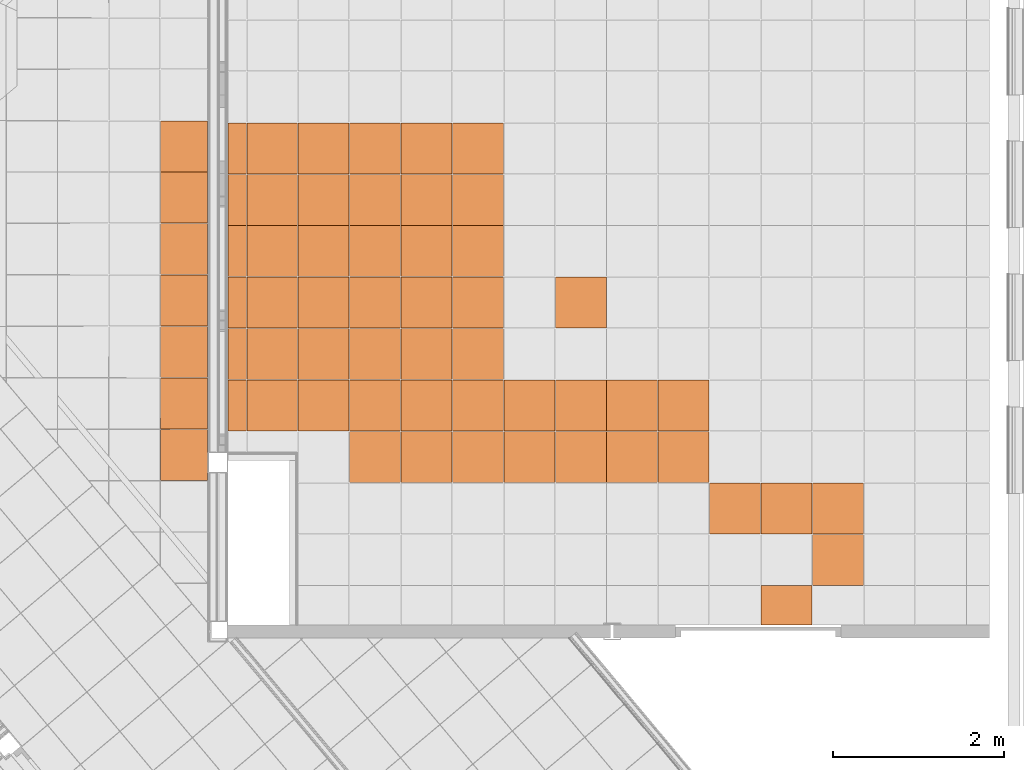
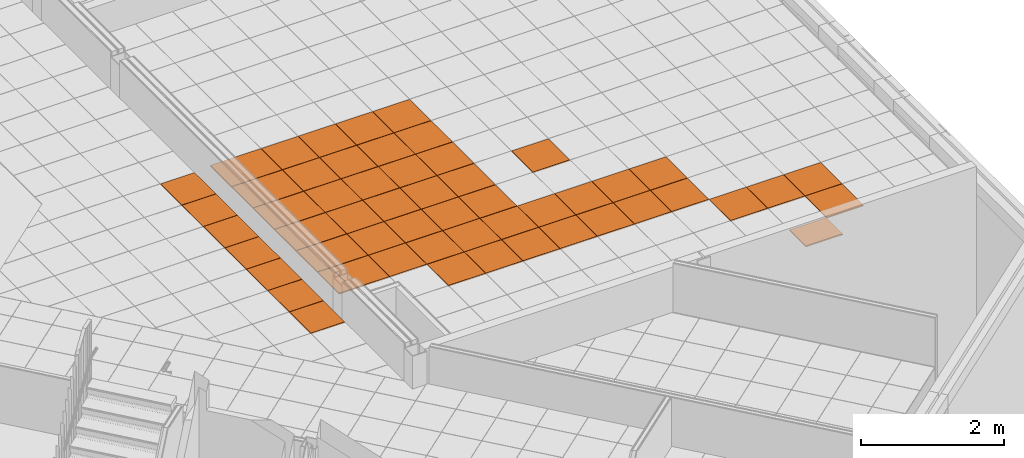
# One storey, part 216 of 338: 60 proxies, 2 elements without a shape of their own.
"""IFC2X3 building model written with IfcOpenShell, lengths in millimetres."""

import ifcopenshell
import ifcopenshell.guid

model = None  # the IFC model being written
_history = None  # IfcOwnerHistory: only IFC2X3 demands one
_inside = {}  # id of a spatial element -> (the spatial element, [elements in it])
_under = {}  # id of a project, library or spatial element -> (it, [spatial elements below it])
_declared = {}  # id of a project -> (the project, [libraries it declares])
_typed = {}  # id of a type object -> (the type object, [elements of that type])
_made_of = {}  # id of a material, layer set ... -> (it, [elements and type objects made of it])


def new_model(schema):
    """Start an empty IFC model of exactly this schema.

    Asked for "IFC4X3", IfcOpenShell would pick the latest addendum, in which some entities
    have other attributes; the version numbers below select the first issue.
    IFC2X3 requires an IfcOwnerHistory on every rooted entity: one is made here for all.
    """
    global model, _history
    if schema == "IFC4X3":
        model = ifcopenshell.file(schema_version=(4, 3, 0, 0))
    else:
        model = ifcopenshell.file(schema=schema)
    _inside.clear()
    _under.clear()
    _declared.clear()
    _typed.clear()
    _made_of.clear()
    _history = None
    if model.schema == "IFC2X3":
        org = make("IfcOrganization", Name="unknown")
        user = make(
            "IfcPersonAndOrganization",
            ThePerson=make("IfcPerson", FamilyName="unknown"),
            TheOrganization=org,
        )
        app = make(
            "IfcApplication",
            ApplicationDeveloper=org,
            Version="unknown",
            ApplicationFullName="unknown",
            ApplicationIdentifier="unknown",
        )
        _history = make(
            "IfcOwnerHistory",
            OwningUser=user,
            OwningApplication=app,
            ChangeAction="ADDED",
            CreationDate=0,
        )
    return model


def make(cls, **values):
    """One entity of the class cls with the attributes given. An attribute that is None is left unset."""
    return model.create_entity(
        cls, **{name: value for name, value in values.items() if value is not None}
    )


def entity(cls, *values):
    """Any entity or typed value of the class cls, its attributes in the order of the schema. None: left unset."""
    e = model.create_entity(cls)
    for i, value in enumerate(values):
        if value is not None:
            e[i] = value
    return e


def rooted(cls, **values):
    """An entity with a GlobalId (a new one), such as an element, a storey or a relation."""
    return make(cls, GlobalId=ifcopenshell.guid.new(), OwnerHistory=_history, **values)


def si_unit(unit_type, name, prefix=None):
    """IfcSIUnit, for example si_unit("LENGTHUNIT", "METRE", prefix="MILLI")."""
    return make("IfcSIUnit", UnitType=unit_type, Prefix=prefix, Name=name)


def converted_unit(unit_type, name, factor, base, dimensions=None, offset=None):
    """IfcConversionBasedUnit, such as the inch: factor (a typed value) times the base unit."""
    return make(
        "IfcConversionBasedUnit"
        if offset is None
        else "IfcConversionBasedUnitWithOffset",
        ConversionOffset=offset,
        Dimensions=None
        if dimensions is None
        else entity("IfcDimensionalExponents", *dimensions),
        UnitType=unit_type,
        Name=name,
        ConversionFactor=make(
            "IfcMeasureWithUnit", ValueComponent=factor, UnitComponent=base
        ),
    )


def derived_unit(unit_type, elements):
    """IfcDerivedUnit: a product of units, each with its exponent."""
    return make(
        "IfcDerivedUnit",
        Elements=[
            make("IfcDerivedUnitElement", Unit=unit, Exponent=power)
            for unit, power in elements
        ],
        UnitType=unit_type,
    )


def money_unit(currency):
    """IfcMonetaryUnit."""
    return make("IfcMonetaryUnit", Currency=currency)


def assignment(units):
    """IfcUnitAssignment: the units of a project."""
    return None if units is None else make("IfcUnitAssignment", Units=units)


def point(xyz):
    """IfcCartesianPoint."""
    return None if xyz is None else make("IfcCartesianPoint", Coordinates=xyz)


def direction(xyz):
    """IfcDirection."""
    return None if xyz is None else make("IfcDirection", DirectionRatios=xyz)


def frame(location, z_axis=None, x_axis=None):
    """IfcAxis2Placement3D, a coordinate frame: its origin and axes. An axis left out is left unset."""
    return make(
        "IfcAxis2Placement3D",
        Location=point(location),
        Axis=direction(z_axis),
        RefDirection=direction(x_axis),
    )


def origin_with_axes():
    """The frame at (0, 0, 0) with the z axis (0, 0, 1) and the x axis (1, 0, 0) written out."""
    return frame((0.0, 0.0, 0.0), z_axis=(0.0, 0.0, 1.0), x_axis=(1.0, 0.0, 0.0))


def place(relative_to, where):
    """IfcLocalPlacement: puts the frame where relative to a parent placement (None: the world)."""
    return make(
        "IfcLocalPlacement", PlacementRelTo=relative_to, RelativePlacement=where
    )


def context(
    kind, dimensions, precision=None, world=None, true_north=None, identifier=None
):
    """IfcGeometricRepresentationContext, for example the 3D "Model" context."""
    return make(
        "IfcGeometricRepresentationContext",
        ContextIdentifier=identifier,
        ContextType=kind,
        CoordinateSpaceDimension=dimensions,
        Precision=precision,
        WorldCoordinateSystem=world,
        TrueNorth=true_north,
    )


def subcontext(parent, identifier, kind, view, scale=None):
    """IfcGeometricRepresentationSubContext, for example "Body" below "Model"."""
    return make(
        "IfcGeometricRepresentationSubContext",
        ContextIdentifier=identifier,
        ContextType=kind,
        ParentContext=parent,
        TargetScale=scale,
        TargetView=view,
    )


def project(units=None, contexts=None):
    """IfcProject with its units and contexts."""
    return rooted(
        "IfcProject",
        Name="project",
        RepresentationContexts=contexts,
        UnitsInContext=assignment(units),
    )


def spatial(cls, under=None, at=None, **own):
    """A site, building, storey or space (cls), placed at a placement, below another one or the project."""
    s = rooted(cls, ObjectPlacement=at, **own)
    if under is not None:
        _under.setdefault(under.id(), (under, []))[1].append(s)
    return s


def faces_of(points, faces, orient=None, outer=None):
    """IfcFace entities. A face is a list of loops; a loop is a list of indices into points, from 0.

    orient and outer hold one flag for each loop. By default every Orientation is true, the
    first loop of a face is its IfcFaceOuterBound and the others are IfcFaceBound.
    """
    made = []
    for i, loops in enumerate(faces):
        bounds = []
        for j, loop in enumerate(loops):
            is_outer = j == 0 if outer is None else outer[i][j]
            bounds.append(
                make(
                    "IfcFaceOuterBound" if is_outer else "IfcFaceBound",
                    Bound=make("IfcPolyLoop", Polygon=[points[k] for k in loop]),
                    Orientation=True if orient is None else orient[i][j],
                )
            )
        made.append(make("IfcFace", Bounds=bounds))
    return made


def faceted_brep(points, faces, orient=None, outer=None, voids=None):
    """IfcFacetedBrep: a solid bounded by flat faces; with voids (closed shells), ...WithVoids."""
    shared = [point(p) for p in points]
    hull = make("IfcClosedShell", CfsFaces=faces_of(shared, faces, orient, outer))
    if voids is None:
        return make("IfcFacetedBrep", Outer=hull)
    return make(
        "IfcFacetedBrepWithVoids",
        Outer=hull,
        Voids=[
            make(cls, CfsFaces=faces_of(shared, fs, o, b)) for cls, fs, o, b in voids
        ],
    )


def shape(context_of_items, identifier, shape_type, items):
    """IfcShapeRepresentation: the items that make up one representation, for example the "Body"."""
    return make(
        "IfcShapeRepresentation",
        ContextOfItems=context_of_items,
        RepresentationIdentifier=identifier,
        RepresentationType=shape_type,
        Items=items,
    )


def source(mapping_origin, context_of_items, identifier, shape_type, items):
    """IfcRepresentationMap: a shape defined once, which mapped items show again and again."""
    return make(
        "IfcRepresentationMap",
        MappingOrigin=mapping_origin,
        MappedRepresentation=shape(context_of_items, identifier, shape_type, items),
    )


def transform(
    local_origin,
    x_axis=None,
    y_axis=None,
    z_axis=None,
    scale=None,
    scale2=None,
    scale3=None,
    uniform=True,
):
    """IfcCartesianTransformationOperator3D, or its non-uniform kind. x_axis, y_axis, z_axis: its Axis1, 2, 3."""
    if uniform:
        return make(
            "IfcCartesianTransformationOperator3D",
            Axis1=direction(x_axis),
            Axis2=direction(y_axis),
            LocalOrigin=point(local_origin),
            Scale=scale,
            Axis3=direction(z_axis),
        )
    return make(
        "IfcCartesianTransformationOperator3DnonUniform",
        Axis1=direction(x_axis),
        Axis2=direction(y_axis),
        LocalOrigin=point(local_origin),
        Scale=scale,
        Axis3=direction(z_axis),
        Scale2=scale2,
        Scale3=scale3,
    )


def mapped(mapping_source, mapping_target):
    """IfcMappedItem: shows the shape of a source again, moved by a transform."""
    return make(
        "IfcMappedItem", MappingSource=mapping_source, MappingTarget=mapping_target
    )


def material(Name=None, Category=None):
    """IfcMaterial."""
    return make("IfcMaterial", Name=Name, Category=Category)


def made_of(thing, what):
    """Note that an element or type object is made of a material, layer set ...; save() writes the relation."""
    if what is not None:
        _made_of.setdefault(what.id(), (what, []))[1].append(thing)
    return thing


def type_object(cls, material=None, **own):
    """A type object (cls), such as IfcWallType, which elements share."""
    return made_of(rooted(cls, **own), material)


def type_shapes(of_type, sources):
    """Give a type object the sources (RepresentationMaps) that its elements show as mapped items."""
    of_type.RepresentationMaps = sources


def element(
    cls,
    number,
    at=None,
    inside=None,
    cuts=None,
    type_object=None,
    material=None,
    context=None,
    identifier="Body",
    shape_type=None,
    held_by="IfcProductDefinitionShape",
    body=None,
    shapes=None,
    **own,
):
    """One element of the class cls, such as IfcWall. Its Tag is "e" and its number.

    at: its placement. inside: the storey or other place that contains it. cuts: it is an
    opening in that element (IfcRelVoidsElement). A single representation is given by context,
    identifier, shape_type and body (its items); several are given by shapes. held_by: the class
    of the entity that holds the representations. save() writes the other relations.
    """
    e = rooted(cls, Tag="e%d" % number, ObjectPlacement=at, **own)
    if body is not None:
        shapes = [shape(context, identifier, shape_type, body)]
    if shapes is not None:
        e.Representation = make(held_by, Representations=shapes)
    if inside is not None:
        _inside.setdefault(inside.id(), (inside, []))[1].append(e)
    if cuts is not None:
        rooted(
            "IfcRelVoidsElement", RelatingBuildingElement=cuts, RelatedOpeningElement=e
        )
    if type_object is not None:
        _typed.setdefault(type_object.id(), (type_object, []))[1].append(e)
    return made_of(e, material)


def aggregate(whole, parts):
    """IfcRelAggregates: a whole, such as a stair, and the parts it consists of."""
    return rooted("IfcRelAggregates", RelatingObject=whole, RelatedObjects=parts)


def save(model, path):
    """Write the relations noted so far, then the file.

    IfcRelAggregates (storeys below a building ...), IfcRelContainedInSpatialStructure (elements
    in a storey), IfcRelDefinesByType, IfcRelAssociatesMaterial and IfcRelDeclares: one each for
    every whole, place, type object, material and project.
    """
    for whole, parts in _under.values():
        aggregate(whole, parts)
    for where, things in _inside.values():
        rooted(
            "IfcRelContainedInSpatialStructure",
            RelatedElements=things,
            RelatingStructure=where,
        )
    for kind, things in _typed.values():
        rooted("IfcRelDefinesByType", RelatedObjects=things, RelatingType=kind)
    for what, things in _made_of.values():
        rooted("IfcRelAssociatesMaterial", RelatedObjects=things, RelatingMaterial=what)
    for by, libraries in _declared.values():
        rooted("IfcRelDeclares", RelatingContext=by, RelatedDefinitions=libraries)
    model.write(path)


model = new_model("IFC2X3")

# Units and contexts
model_context = context("Model", 3, precision=0.01, world=origin_with_axes(), true_north=direction((0.0, 1.0)))
plan_context = context("Plan", 3, precision=0.01, world=origin_with_axes(), true_north=direction((0.0, 1.0)))
body_context = subcontext(model_context, "Body", "Model", "MODEL_VIEW")
ifc_project = project(units=[si_unit("LENGTHUNIT", "METRE", prefix="MILLI"), si_unit("AREAUNIT", "SQUARE_METRE"), si_unit("VOLUMEUNIT", "CUBIC_METRE"), converted_unit("PLANEANGLEUNIT", "DEGREE", entity("IfcPlaneAngleMeasure", 0.0174532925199), si_unit("PLANEANGLEUNIT", "RADIAN"), dimensions=[0, 0, 0, 0, 0, 0, 0]), money_unit("EUR"), converted_unit("TIMEUNIT", "Year", entity("IfcTimeMeasure", 31556926.0), si_unit("TIMEUNIT", "SECOND"), dimensions=[0, 0, 1, 0, 0, 0, 0]), si_unit("MASSUNIT", "GRAM", prefix="KILO"), si_unit("THERMODYNAMICTEMPERATUREUNIT", "DEGREE_CELSIUS"), si_unit("LUMINOUSINTENSITYUNIT", "LUMEN"), si_unit("ENERGYUNIT", "JOULE", prefix="MEGA"), derived_unit("THERMALCONDUCTANCEUNIT", [(si_unit("POWERUNIT", "WATT"), 1), (si_unit("LENGTHUNIT", "METRE"), -1), (si_unit("THERMODYNAMICTEMPERATUREUNIT", "KELVIN"), -1)]), derived_unit("SPECIFICHEATCAPACITYUNIT", [(si_unit("ENERGYUNIT", "JOULE"), 1), (si_unit("MASSUNIT", "GRAM", prefix="KILO"), -1), (si_unit("THERMODYNAMICTEMPERATUREUNIT", "KELVIN"), -1)]), derived_unit("MASSDENSITYUNIT", [(si_unit("MASSUNIT", "GRAM", prefix="KILO"), 1), (si_unit("VOLUMEUNIT", "CUBIC_METRE"), -1)])], contexts=[model_context, plan_context])

# Site, building, storey
site_placement = place(None, origin_with_axes())
site = spatial("IfcSite", under=ifc_project, at=site_placement, Name="Fortuinstraat Woensdrecht", CompositionType="ELEMENT")
building_placement = place(site_placement, origin_with_axes())
building = spatial("IfcBuilding", under=site, at=building_placement, Name="IKC Fortuna", CompositionType="ELEMENT")
storey_placement = place(building_placement, origin_with_axes())
storey = spatial("IfcBuildingStorey", under=building, at=storey_placement, Name="00 begane grond", CompositionType="ELEMENT", Elevation=0.0)

# Covering, proxies
covering_type = type_object("IfcCoveringType", Name="Curtain Wall Type", PredefinedType="CEILING")
covering_1_placement = place(storey_placement, frame((34484.9342671, 3789.29664615, 3065.0), z_axis=(0.0, 0.0, 1.0), x_axis=(1.0, 0.0, 0.0)))
covering_1 = element("IfcCovering", 1, at=covering_1_placement, inside=storey, type_object=covering_type, Name="45_Plafondafwerking_P02 gec", PredefinedType="CEILING")
ifc_material = material(Name="Gipsplaat")
building_element_proxy_type_1 = type_object("IfcBuildingElementProxyType", Name="Distinct Panel 600 x 600 x 20", PredefinedType="NOTDEFINED")
shared_shape_1 = source(origin_with_axes(), body_context, "Body", "Brep", [
    faceted_brep([(-2.49999999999, 2.5, -10.0), (-2.49999999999, 2.5, 10.0), (-597.5, 2.49999999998, 10.0), (-597.5, 2.49999999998, -10.0), (-2.50000000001, 597.5, -10.0), (-2.50000000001, 597.5, 10.0), (-597.5, 597.5, 10.0), (-597.5, 597.5, -10.0)], [[[0, 1, 2, 3]], [[4, 5, 1, 0]], [[1, 5, 6, 2]], [[3, 2, 6, 7]], [[0, 3, 7, 4]], [[7, 6, 5, 4]]]),
])
type_shapes(building_element_proxy_type_1, [shared_shape_1])
proxy_1_placement = place(covering_1_placement, frame((-6434.49272604, 600.0, 0.0), z_axis=(0.0, 0.0, 1.0), x_axis=(1.0, 0.0, 0.0)))
proxy_1 = element("IfcBuildingElementProxy", 2, at=proxy_1_placement, type_object=building_element_proxy_type_1, material=ifc_material, Name="__Panel-D", context=body_context, shape_type="MappedRepresentation", body=[
    mapped(shared_shape_1, transform((-300.0, 300.0, 0.0), x_axis=(-1.0, 0.0, 0.0), y_axis=(0.0, -1.0, 0.0), z_axis=(0.0, 0.0, 1.0))),
])
proxy_2_placement = place(covering_1_placement, frame((-2234.49272604, -600.0, 2.14939177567e-10), z_axis=(0.0, 0.0, 1.0), x_axis=(1.0, 0.0, 0.0)))
proxy_2 = element("IfcBuildingElementProxy", 3, at=proxy_2_placement, type_object=building_element_proxy_type_1, material=ifc_material, Name="__Panel-D", context=body_context, shape_type="MappedRepresentation", body=[
    mapped(shared_shape_1, transform((-300.0, 300.0, 0.0), x_axis=(-1.0, 0.0, 0.0), y_axis=(0.0, -1.0, 0.0), z_axis=(0.0, 0.0, 1.0))),
])
proxy_3_placement = place(covering_1_placement, frame((-5834.49272604, 2.3625545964e-10, 0.0), z_axis=(0.0, 0.0, 1.0), x_axis=(1.0, 0.0, 0.0)))
proxy_3 = element("IfcBuildingElementProxy", 4, at=proxy_3_placement, type_object=building_element_proxy_type_1, material=ifc_material, Name="__Panel-D", context=body_context, shape_type="MappedRepresentation", body=[
    mapped(shared_shape_1, transform((-300.0, 300.0, 0.0), x_axis=(-1.0, 0.0, 0.0), y_axis=(0.0, -1.0, 0.0), z_axis=(0.0, 0.0, 1.0))),
])
proxy_4_placement = place(covering_1_placement, frame((-7034.49272604, 600.0, 0.0), z_axis=(0.0, 0.0, 1.0), x_axis=(1.0, 0.0, 0.0)))
proxy_4 = element("IfcBuildingElementProxy", 5, at=proxy_4_placement, type_object=building_element_proxy_type_1, material=ifc_material, Name="__Panel-D", context=body_context, shape_type="MappedRepresentation", body=[
    mapped(shared_shape_1, transform((-300.0, 300.0, 0.0), x_axis=(-1.0, 0.0, 0.0), y_axis=(0.0, -1.0, 0.0), z_axis=(0.0, 0.0, 1.0))),
])
proxy_5_placement = place(covering_1_placement, frame((-8234.49272604, 600.0, 0.0), z_axis=(0.0, 0.0, 1.0), x_axis=(1.0, 0.0, 0.0)))
proxy_5 = element("IfcBuildingElementProxy", 6, at=proxy_5_placement, type_object=building_element_proxy_type_1, material=ifc_material, Name="__Panel-D", context=body_context, shape_type="MappedRepresentation", body=[
    mapped(shared_shape_1, transform((-300.0, 300.0, 0.0), x_axis=(-1.0, 0.0, 0.0), y_axis=(0.0, -1.0, 0.0), z_axis=(0.0, 0.0, 1.0))),
])
proxy_6_placement = place(covering_1_placement, frame((-1634.49272604, -1200.0, 2.34479102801e-10), z_axis=(0.0, 0.0, 1.0), x_axis=(1.0, 0.0, 0.0)))
proxy_6 = element("IfcBuildingElementProxy", 7, at=proxy_6_placement, type_object=building_element_proxy_type_1, material=ifc_material, Name="__Panel-D", context=body_context, shape_type="MappedRepresentation", body=[
    mapped(shared_shape_1, transform((-300.0, 300.0, 0.0), x_axis=(-1.0, 0.0, 0.0), y_axis=(0.0, -1.0, 0.0), z_axis=(0.0, 0.0, 1.0))),
])
proxy_7_placement = place(covering_1_placement, frame((-6434.49272604, 2.60236276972e-10, 0.0), z_axis=(0.0, 0.0, 1.0), x_axis=(1.0, 0.0, 0.0)))
proxy_7 = element("IfcBuildingElementProxy", 8, at=proxy_7_placement, type_object=building_element_proxy_type_1, material=ifc_material, Name="__Panel-D", context=body_context, shape_type="MappedRepresentation", body=[
    mapped(shared_shape_1, transform((-300.0, 300.0, 0.0), x_axis=(-1.0, 0.0, 0.0), y_axis=(0.0, -1.0, 0.0), z_axis=(0.0, 0.0, 1.0))),
])
proxy_8_placement = place(covering_1_placement, frame((-7034.49272604, 2.84217094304e-10, 0.0), z_axis=(0.0, 0.0, 1.0), x_axis=(1.0, 0.0, 0.0)))
proxy_8 = element("IfcBuildingElementProxy", 9, at=proxy_8_placement, type_object=building_element_proxy_type_1, material=ifc_material, Name="__Panel-D", context=body_context, shape_type="MappedRepresentation", body=[
    mapped(shared_shape_1, transform((-300.0, 300.0, 0.0), x_axis=(-1.0, 0.0, 0.0), y_axis=(0.0, -1.0, 0.0), z_axis=(0.0, 0.0, 1.0))),
])
proxy_9_placement = place(covering_1_placement, frame((-7634.49272604, 600.0, 0.0), z_axis=(0.0, 0.0, 1.0), x_axis=(1.0, 0.0, 0.0)))
proxy_9 = element("IfcBuildingElementProxy", 10, at=proxy_9_placement, type_object=building_element_proxy_type_1, material=ifc_material, Name="__Panel-D", context=body_context, shape_type="MappedRepresentation", body=[
    mapped(shared_shape_1, transform((-300.0, 300.0, 0.0), x_axis=(-1.0, 0.0, 0.0), y_axis=(0.0, -1.0, 0.0), z_axis=(0.0, 0.0, 1.0))),
])
proxy_10_placement = place(covering_1_placement, frame((-1634.49272604, -600.0, 2.34479102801e-10), z_axis=(0.0, 0.0, 1.0), x_axis=(1.0, 0.0, 0.0)))
proxy_10 = element("IfcBuildingElementProxy", 11, at=proxy_10_placement, type_object=building_element_proxy_type_1, material=ifc_material, Name="__Panel-D", context=body_context, shape_type="MappedRepresentation", body=[
    mapped(shared_shape_1, transform((-300.0, 300.0, 0.0), x_axis=(-1.0, 0.0, 0.0), y_axis=(0.0, -1.0, 0.0), z_axis=(0.0, 0.0, 1.0))),
])
proxy_11_placement = place(covering_1_placement, frame((-2834.49272604, -600.0, 1.95399252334e-10), z_axis=(0.0, 0.0, 1.0), x_axis=(1.0, 0.0, 0.0)))
proxy_11 = element("IfcBuildingElementProxy", 12, at=proxy_11_placement, type_object=building_element_proxy_type_1, material=ifc_material, Name="__Panel-D", context=body_context, shape_type="MappedRepresentation", body=[
    mapped(shared_shape_1, transform((-300.0, 300.0, 0.0), x_axis=(-1.0, 0.0, 0.0), y_axis=(0.0, -1.0, 0.0), z_axis=(0.0, 0.0, 1.0))),
])
proxy_12_placement = place(covering_1_placement, frame((-5834.49272604, 3600.0, 0.0), z_axis=(0.0, 0.0, 1.0), x_axis=(1.0, 0.0, 0.0)))
proxy_12 = element("IfcBuildingElementProxy", 13, at=proxy_12_placement, type_object=building_element_proxy_type_1, material=ifc_material, Name="__Panel-D", context=body_context, shape_type="MappedRepresentation", body=[
    mapped(shared_shape_1, transform((-300.0, 300.0, 0.0), x_axis=(-1.0, 0.0, 0.0), y_axis=(0.0, -1.0, 0.0), z_axis=(0.0, 0.0, 1.0))),
])
proxy_13_placement = place(covering_1_placement, frame((-6434.49272604, 3600.0, 0.0), z_axis=(0.0, 0.0, 1.0), x_axis=(1.0, 0.0, 0.0)))
proxy_13 = element("IfcBuildingElementProxy", 14, at=proxy_13_placement, type_object=building_element_proxy_type_1, material=ifc_material, Name="__Panel-D", context=body_context, shape_type="MappedRepresentation", body=[
    mapped(shared_shape_1, transform((-300.0, 300.0, 0.0), x_axis=(-1.0, 0.0, 0.0), y_axis=(0.0, -1.0, 0.0), z_axis=(0.0, 0.0, 1.0))),
])
proxy_14_placement = place(covering_1_placement, frame((-7034.49272604, 3600.0, 0.0), z_axis=(0.0, 0.0, 1.0), x_axis=(1.0, 0.0, 0.0)))
proxy_14 = element("IfcBuildingElementProxy", 15, at=proxy_14_placement, type_object=building_element_proxy_type_1, material=ifc_material, Name="__Panel-D", context=body_context, shape_type="MappedRepresentation", body=[
    mapped(shared_shape_1, transform((-300.0, 300.0, 0.0), x_axis=(-1.0, 0.0, 0.0), y_axis=(0.0, -1.0, 0.0), z_axis=(0.0, 0.0, 1.0))),
])
proxy_15_placement = place(covering_1_placement, frame((-7634.49272604, 3600.0, 0.0), z_axis=(0.0, 0.0, 1.0), x_axis=(1.0, 0.0, 0.0)))
proxy_15 = element("IfcBuildingElementProxy", 16, at=proxy_15_placement, type_object=building_element_proxy_type_1, material=ifc_material, Name="__Panel-D", context=body_context, shape_type="MappedRepresentation", body=[
    mapped(shared_shape_1, transform((-300.0, 300.0, 0.0), x_axis=(-1.0, 0.0, 0.0), y_axis=(0.0, -1.0, 0.0), z_axis=(0.0, 0.0, 1.0))),
])
proxy_16_placement = place(covering_1_placement, frame((-8234.49272604, 3600.0, 0.0), z_axis=(0.0, 0.0, 1.0), x_axis=(1.0, 0.0, 0.0)))
proxy_16 = element("IfcBuildingElementProxy", 17, at=proxy_16_placement, type_object=building_element_proxy_type_1, material=ifc_material, Name="__Panel-D", context=body_context, shape_type="MappedRepresentation", body=[
    mapped(shared_shape_1, transform((-300.0, 300.0, 0.0), x_axis=(-1.0, 0.0, 0.0), y_axis=(0.0, -1.0, 0.0), z_axis=(0.0, 0.0, 1.0))),
])
proxy_17_placement = place(covering_1_placement, frame((-8234.49272604, 3000.0, 0.0), z_axis=(0.0, 0.0, 1.0), x_axis=(1.0, 0.0, 0.0)))
proxy_17 = element("IfcBuildingElementProxy", 18, at=proxy_17_placement, type_object=building_element_proxy_type_1, material=ifc_material, Name="__Panel-D", context=body_context, shape_type="MappedRepresentation", body=[
    mapped(shared_shape_1, transform((-300.0, 300.0, 0.0), x_axis=(-1.0, 0.0, 0.0), y_axis=(0.0, -1.0, 0.0), z_axis=(0.0, 0.0, 1.0))),
])
proxy_18_placement = place(covering_1_placement, frame((-7634.49272604, 3000.0, 0.0), z_axis=(0.0, 0.0, 1.0), x_axis=(1.0, 0.0, 0.0)))
proxy_18 = element("IfcBuildingElementProxy", 19, at=proxy_18_placement, type_object=building_element_proxy_type_1, material=ifc_material, Name="__Panel-D", context=body_context, shape_type="MappedRepresentation", body=[
    mapped(shared_shape_1, transform((-300.0, 300.0, 0.0), x_axis=(-1.0, 0.0, 0.0), y_axis=(0.0, -1.0, 0.0), z_axis=(0.0, 0.0, 1.0))),
])
proxy_19_placement = place(covering_1_placement, frame((-7034.49272604, 3000.0, 0.0), z_axis=(0.0, 0.0, 1.0), x_axis=(1.0, 0.0, 0.0)))
proxy_19 = element("IfcBuildingElementProxy", 20, at=proxy_19_placement, type_object=building_element_proxy_type_1, material=ifc_material, Name="__Panel-D", context=body_context, shape_type="MappedRepresentation", body=[
    mapped(shared_shape_1, transform((-300.0, 300.0, 0.0), x_axis=(-1.0, 0.0, 0.0), y_axis=(0.0, -1.0, 0.0), z_axis=(0.0, 0.0, 1.0))),
])
proxy_20_placement = place(covering_1_placement, frame((-6434.49272604, 3000.0, 0.0), z_axis=(0.0, 0.0, 1.0), x_axis=(1.0, 0.0, 0.0)))
proxy_20 = element("IfcBuildingElementProxy", 21, at=proxy_20_placement, type_object=building_element_proxy_type_1, material=ifc_material, Name="__Panel-D", context=body_context, shape_type="MappedRepresentation", body=[
    mapped(shared_shape_1, transform((-300.0, 300.0, 0.0), x_axis=(-1.0, 0.0, 0.0), y_axis=(0.0, -1.0, 0.0), z_axis=(0.0, 0.0, 1.0))),
])
proxy_21_placement = place(covering_1_placement, frame((-5834.49272604, 3000.0, 0.0), z_axis=(0.0, 0.0, 1.0), x_axis=(1.0, 0.0, 0.0)))
proxy_21 = element("IfcBuildingElementProxy", 22, at=proxy_21_placement, type_object=building_element_proxy_type_1, material=ifc_material, Name="__Panel-D", context=body_context, shape_type="MappedRepresentation", body=[
    mapped(shared_shape_1, transform((-300.0, 300.0, 0.0), x_axis=(-1.0, 0.0, 0.0), y_axis=(0.0, -1.0, 0.0), z_axis=(0.0, 0.0, 1.0))),
])
proxy_22_placement = place(covering_1_placement, frame((-4634.49272604, 1800.0, 1.37223565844e-10), z_axis=(0.0, 0.0, 1.0), x_axis=(1.0, 0.0, 0.0)))
proxy_22 = element("IfcBuildingElementProxy", 23, at=proxy_22_placement, type_object=building_element_proxy_type_1, material=ifc_material, Name="__Panel-D", context=body_context, shape_type="MappedRepresentation", body=[
    mapped(shared_shape_1, transform((-300.0, 300.0, 0.0), x_axis=(-1.0, 0.0, 0.0), y_axis=(0.0, -1.0, 0.0), z_axis=(0.0, 0.0, 1.0))),
])
proxy_23_placement = place(covering_1_placement, frame((-5834.49272604, 2400.0, 0.0), z_axis=(0.0, 0.0, 1.0), x_axis=(1.0, 0.0, 0.0)))
proxy_23 = element("IfcBuildingElementProxy", 24, at=proxy_23_placement, type_object=building_element_proxy_type_1, material=ifc_material, Name="__Panel-D", context=body_context, shape_type="MappedRepresentation", body=[
    mapped(shared_shape_1, transform((-300.0, 300.0, 0.0), x_axis=(-1.0, 0.0, 0.0), y_axis=(0.0, -1.0, 0.0), z_axis=(0.0, 0.0, 1.0))),
])
proxy_24_placement = place(covering_1_placement, frame((-6434.49272604, 2400.0, 0.0), z_axis=(0.0, 0.0, 1.0), x_axis=(1.0, 0.0, 0.0)))
proxy_24 = element("IfcBuildingElementProxy", 25, at=proxy_24_placement, type_object=building_element_proxy_type_1, material=ifc_material, Name="__Panel-D", context=body_context, shape_type="MappedRepresentation", body=[
    mapped(shared_shape_1, transform((-300.0, 300.0, 0.0), x_axis=(-1.0, 0.0, 0.0), y_axis=(0.0, -1.0, 0.0), z_axis=(0.0, 0.0, 1.0))),
])
proxy_25_placement = place(covering_1_placement, frame((-7034.49272604, 2400.0, 0.0), z_axis=(0.0, 0.0, 1.0), x_axis=(1.0, 0.0, 0.0)))
proxy_25 = element("IfcBuildingElementProxy", 26, at=proxy_25_placement, type_object=building_element_proxy_type_1, material=ifc_material, Name="__Panel-D", context=body_context, shape_type="MappedRepresentation", body=[
    mapped(shared_shape_1, transform((-300.0, 300.0, 0.0), x_axis=(-1.0, 0.0, 0.0), y_axis=(0.0, -1.0, 0.0), z_axis=(0.0, 0.0, 1.0))),
])
proxy_26_placement = place(covering_1_placement, frame((-7634.49272604, 2400.0, 0.0), z_axis=(0.0, 0.0, 1.0), x_axis=(1.0, 0.0, 0.0)))
proxy_26 = element("IfcBuildingElementProxy", 27, at=proxy_26_placement, type_object=building_element_proxy_type_1, material=ifc_material, Name="__Panel-D", context=body_context, shape_type="MappedRepresentation", body=[
    mapped(shared_shape_1, transform((-300.0, 300.0, 0.0), x_axis=(-1.0, 0.0, 0.0), y_axis=(0.0, -1.0, 0.0), z_axis=(0.0, 0.0, 1.0))),
])
proxy_27_placement = place(covering_1_placement, frame((-8234.49272604, 2400.0, 0.0), z_axis=(0.0, 0.0, 1.0), x_axis=(1.0, 0.0, 0.0)))
proxy_27 = element("IfcBuildingElementProxy", 28, at=proxy_27_placement, type_object=building_element_proxy_type_1, material=ifc_material, Name="__Panel-D", context=body_context, shape_type="MappedRepresentation", body=[
    mapped(shared_shape_1, transform((-300.0, 300.0, 0.0), x_axis=(-1.0, 0.0, 0.0), y_axis=(0.0, -1.0, 0.0), z_axis=(0.0, 0.0, 1.0))),
])
proxy_28_placement = place(covering_1_placement, frame((-8234.49272604, 1800.0, 0.0), z_axis=(0.0, 0.0, 1.0), x_axis=(1.0, 0.0, 0.0)))
proxy_28 = element("IfcBuildingElementProxy", 29, at=proxy_28_placement, type_object=building_element_proxy_type_1, material=ifc_material, Name="__Panel-D", context=body_context, shape_type="MappedRepresentation", body=[
    mapped(shared_shape_1, transform((-300.0, 300.0, 0.0), x_axis=(-1.0, 0.0, 0.0), y_axis=(0.0, -1.0, 0.0), z_axis=(0.0, 0.0, 1.0))),
])
proxy_29_placement = place(covering_1_placement, frame((-7634.49272604, 1800.0, 0.0), z_axis=(0.0, 0.0, 1.0), x_axis=(1.0, 0.0, 0.0)))
proxy_29 = element("IfcBuildingElementProxy", 30, at=proxy_29_placement, type_object=building_element_proxy_type_1, material=ifc_material, Name="__Panel-D", context=body_context, shape_type="MappedRepresentation", body=[
    mapped(shared_shape_1, transform((-300.0, 300.0, 0.0), x_axis=(-1.0, 0.0, 0.0), y_axis=(0.0, -1.0, 0.0), z_axis=(0.0, 0.0, 1.0))),
])
proxy_30_placement = place(covering_1_placement, frame((-7034.49272604, 1800.0, 0.0), z_axis=(0.0, 0.0, 1.0), x_axis=(1.0, 0.0, 0.0)))
proxy_30 = element("IfcBuildingElementProxy", 31, at=proxy_30_placement, type_object=building_element_proxy_type_1, material=ifc_material, Name="__Panel-D", context=body_context, shape_type="MappedRepresentation", body=[
    mapped(shared_shape_1, transform((-300.0, 300.0, 0.0), x_axis=(-1.0, 0.0, 0.0), y_axis=(0.0, -1.0, 0.0), z_axis=(0.0, 0.0, 1.0))),
])
proxy_31_placement = place(covering_1_placement, frame((-6434.49272604, 1800.0, 0.0), z_axis=(0.0, 0.0, 1.0), x_axis=(1.0, 0.0, 0.0)))
proxy_31 = element("IfcBuildingElementProxy", 32, at=proxy_31_placement, type_object=building_element_proxy_type_1, material=ifc_material, Name="__Panel-D", context=body_context, shape_type="MappedRepresentation", body=[
    mapped(shared_shape_1, transform((-300.0, 300.0, 0.0), x_axis=(-1.0, 0.0, 0.0), y_axis=(0.0, -1.0, 0.0), z_axis=(0.0, 0.0, 1.0))),
])
proxy_32_placement = place(covering_1_placement, frame((-5834.49272604, 1800.0, 0.0), z_axis=(0.0, 0.0, 1.0), x_axis=(1.0, 0.0, 0.0)))
proxy_32 = element("IfcBuildingElementProxy", 33, at=proxy_32_placement, type_object=building_element_proxy_type_1, material=ifc_material, Name="__Panel-D", context=body_context, shape_type="MappedRepresentation", body=[
    mapped(shared_shape_1, transform((-300.0, 300.0, 0.0), x_axis=(-1.0, 0.0, 0.0), y_axis=(0.0, -1.0, 0.0), z_axis=(0.0, 0.0, 1.0))),
])
proxy_33_placement = place(covering_1_placement, frame((-4634.49272604, 600.0, 1.37223565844e-10), z_axis=(0.0, 0.0, 1.0), x_axis=(1.0, 0.0, 0.0)))
proxy_33 = element("IfcBuildingElementProxy", 34, at=proxy_33_placement, type_object=building_element_proxy_type_1, material=ifc_material, Name="__Panel-D", context=body_context, shape_type="MappedRepresentation", body=[
    mapped(shared_shape_1, transform((-300.0, 300.0, 0.0), x_axis=(-1.0, 0.0, 0.0), y_axis=(0.0, -1.0, 0.0), z_axis=(0.0, 0.0, 1.0))),
])
proxy_34_placement = place(covering_1_placement, frame((-4034.49272604, 600.0, 1.56319401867e-10), z_axis=(0.0, 0.0, 1.0), x_axis=(1.0, 0.0, 0.0)))
proxy_34 = element("IfcBuildingElementProxy", 35, at=proxy_34_placement, type_object=building_element_proxy_type_1, material=ifc_material, Name="__Panel-D", context=body_context, shape_type="MappedRepresentation", body=[
    mapped(shared_shape_1, transform((-300.0, 300.0, 0.0), x_axis=(-1.0, 0.0, 0.0), y_axis=(0.0, -1.0, 0.0), z_axis=(0.0, 0.0, 1.0))),
])
proxy_35_placement = place(covering_1_placement, frame((-3434.49272604, 600.0, 1.75859327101e-10), z_axis=(0.0, 0.0, 1.0), x_axis=(1.0, 0.0, 0.0)))
proxy_35 = element("IfcBuildingElementProxy", 36, at=proxy_35_placement, type_object=building_element_proxy_type_1, material=ifc_material, Name="__Panel-D", context=body_context, shape_type="MappedRepresentation", body=[
    mapped(shared_shape_1, transform((-300.0, 300.0, 0.0), x_axis=(-1.0, 0.0, 0.0), y_axis=(0.0, -1.0, 0.0), z_axis=(0.0, 0.0, 1.0))),
])
proxy_36_placement = place(covering_1_placement, frame((-3434.49272604, 1.39444011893e-10, 1.75859327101e-10), z_axis=(0.0, 0.0, 1.0), x_axis=(1.0, 0.0, 0.0)))
proxy_36 = element("IfcBuildingElementProxy", 37, at=proxy_36_placement, type_object=building_element_proxy_type_1, material=ifc_material, Name="__Panel-D", context=body_context, shape_type="MappedRepresentation", body=[
    mapped(shared_shape_1, transform((-300.0, 300.0, 0.0), x_axis=(-1.0, 0.0, 0.0), y_axis=(0.0, -1.0, 0.0), z_axis=(0.0, 0.0, 1.0))),
])
proxy_37_placement = place(covering_1_placement, frame((-4034.49272604, 1.63424829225e-10, 1.56319401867e-10), z_axis=(0.0, 0.0, 1.0), x_axis=(1.0, 0.0, 0.0)))
proxy_37 = element("IfcBuildingElementProxy", 38, at=proxy_37_placement, type_object=building_element_proxy_type_1, material=ifc_material, Name="__Panel-D", context=body_context, shape_type="MappedRepresentation", body=[
    mapped(shared_shape_1, transform((-300.0, 300.0, 0.0), x_axis=(-1.0, 0.0, 0.0), y_axis=(0.0, -1.0, 0.0), z_axis=(0.0, 0.0, 1.0))),
])
proxy_38_placement = place(covering_1_placement, frame((-4634.49272604, 1.87405646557e-10, 1.37223565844e-10), z_axis=(0.0, 0.0, 1.0), x_axis=(1.0, 0.0, 0.0)))
proxy_38 = element("IfcBuildingElementProxy", 39, at=proxy_38_placement, type_object=building_element_proxy_type_1, material=ifc_material, Name="__Panel-D", context=body_context, shape_type="MappedRepresentation", body=[
    mapped(shared_shape_1, transform((-300.0, 300.0, 0.0), x_axis=(-1.0, 0.0, 0.0), y_axis=(0.0, -1.0, 0.0), z_axis=(0.0, 0.0, 1.0))),
])
proxy_39_placement = place(covering_1_placement, frame((-5234.49272604, 2.12274642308e-10, 1.1768364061e-10), z_axis=(0.0, 0.0, 1.0), x_axis=(1.0, 0.0, 0.0)))
proxy_39 = element("IfcBuildingElementProxy", 40, at=proxy_39_placement, type_object=building_element_proxy_type_1, material=ifc_material, Name="__Panel-D", context=body_context, shape_type="MappedRepresentation", body=[
    mapped(shared_shape_1, transform((-300.0, 300.0, 0.0), x_axis=(-1.0, 0.0, 0.0), y_axis=(0.0, -1.0, 0.0), z_axis=(0.0, 0.0, 1.0))),
])
proxy_40_placement = place(covering_1_placement, frame((-5234.49272604, 600.0, 1.1768364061e-10), z_axis=(0.0, 0.0, 1.0), x_axis=(1.0, 0.0, 0.0)))
proxy_40 = element("IfcBuildingElementProxy", 41, at=proxy_40_placement, type_object=building_element_proxy_type_1, material=ifc_material, Name="__Panel-D", context=body_context, shape_type="MappedRepresentation", body=[
    mapped(shared_shape_1, transform((-300.0, 300.0, 0.0), x_axis=(-1.0, 0.0, 0.0), y_axis=(0.0, -1.0, 0.0), z_axis=(0.0, 0.0, 1.0))),
])
proxy_41_placement = place(covering_1_placement, frame((-5834.49272604, 600.0, 0.0), z_axis=(0.0, 0.0, 1.0), x_axis=(1.0, 0.0, 0.0)))
proxy_41 = element("IfcBuildingElementProxy", 42, at=proxy_41_placement, type_object=building_element_proxy_type_1, material=ifc_material, Name="__Panel-D", context=body_context, shape_type="MappedRepresentation", body=[
    mapped(shared_shape_1, transform((-300.0, 300.0, 0.0), x_axis=(-1.0, 0.0, 0.0), y_axis=(0.0, -1.0, 0.0), z_axis=(0.0, 0.0, 1.0))),
])
proxy_42_placement = place(covering_1_placement, frame((-5834.49272604, 1200.0, 0.0), z_axis=(0.0, 0.0, 1.0), x_axis=(1.0, 0.0, 0.0)))
proxy_42 = element("IfcBuildingElementProxy", 43, at=proxy_42_placement, type_object=building_element_proxy_type_1, material=ifc_material, Name="__Panel-D", context=body_context, shape_type="MappedRepresentation", body=[
    mapped(shared_shape_1, transform((-300.0, 300.0, 0.0), x_axis=(-1.0, 0.0, 0.0), y_axis=(0.0, -1.0, 0.0), z_axis=(0.0, 0.0, 1.0))),
])
proxy_43_placement = place(covering_1_placement, frame((-6434.49272604, 1200.0, 0.0), z_axis=(0.0, 0.0, 1.0), x_axis=(1.0, 0.0, 0.0)))
proxy_43 = element("IfcBuildingElementProxy", 44, at=proxy_43_placement, type_object=building_element_proxy_type_1, material=ifc_material, Name="__Panel-D", context=body_context, shape_type="MappedRepresentation", body=[
    mapped(shared_shape_1, transform((-300.0, 300.0, 0.0), x_axis=(-1.0, 0.0, 0.0), y_axis=(0.0, -1.0, 0.0), z_axis=(0.0, 0.0, 1.0))),
])
proxy_44_placement = place(covering_1_placement, frame((-7034.49272604, 1200.0, 0.0), z_axis=(0.0, 0.0, 1.0), x_axis=(1.0, 0.0, 0.0)))
proxy_44 = element("IfcBuildingElementProxy", 45, at=proxy_44_placement, type_object=building_element_proxy_type_1, material=ifc_material, Name="__Panel-D", context=body_context, shape_type="MappedRepresentation", body=[
    mapped(shared_shape_1, transform((-300.0, 300.0, 0.0), x_axis=(-1.0, 0.0, 0.0), y_axis=(0.0, -1.0, 0.0), z_axis=(0.0, 0.0, 1.0))),
])
proxy_45_placement = place(covering_1_placement, frame((-7634.49272604, 1200.0, 0.0), z_axis=(0.0, 0.0, 1.0), x_axis=(1.0, 0.0, 0.0)))
proxy_45 = element("IfcBuildingElementProxy", 46, at=proxy_45_placement, type_object=building_element_proxy_type_1, material=ifc_material, Name="__Panel-D", context=body_context, shape_type="MappedRepresentation", body=[
    mapped(shared_shape_1, transform((-300.0, 300.0, 0.0), x_axis=(-1.0, 0.0, 0.0), y_axis=(0.0, -1.0, 0.0), z_axis=(0.0, 0.0, 1.0))),
])
proxy_46_placement = place(covering_1_placement, frame((-8234.49272604, 1200.0, 0.0), z_axis=(0.0, 0.0, 1.0), x_axis=(1.0, 0.0, 0.0)))
proxy_46 = element("IfcBuildingElementProxy", 47, at=proxy_46_placement, type_object=building_element_proxy_type_1, material=ifc_material, Name="__Panel-D", context=body_context, shape_type="MappedRepresentation", body=[
    mapped(shared_shape_1, transform((-300.0, 300.0, 0.0), x_axis=(-1.0, 0.0, 0.0), y_axis=(0.0, -1.0, 0.0), z_axis=(0.0, 0.0, 1.0))),
])
building_element_proxy_type_2 = type_object("IfcBuildingElementProxyType", Name="Distinct Panel 600 x 462 x 20", PredefinedType="NOTDEFINED")
shared_shape_2 = source(origin_with_axes(), body_context, "Body", "Brep", [
    faceted_brep([(-2.49999999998, 2.49999724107, -10.0), (-2.49999999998, 2.49999724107, 10.0), (-597.5, 2.49999724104, 10.0), (-597.5, 2.49999724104, -10.0), (-2.5, 459.49870978, -10.0), (-2.5, 459.49870978, 10.0), (-597.5, 459.499416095, 10.0), (-597.5, 459.499416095, -10.0)], [[[0, 1, 2, 3]], [[4, 5, 1, 0]], [[1, 5, 6, 2]], [[3, 2, 6, 7]], [[0, 3, 7, 4]], [[7, 6, 5, 4]]]),
])
type_shapes(building_element_proxy_type_2, [shared_shape_2])
proxy_47_placement = place(covering_1_placement, frame((-2234.49272604, -1730.99889381, 2.14939177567e-10), z_axis=(0.0, 0.0, 1.0), x_axis=(1.0, 0.0, 0.0)))
proxy_47 = element("IfcBuildingElementProxy", 48, at=proxy_47_placement, type_object=building_element_proxy_type_2, material=ifc_material, Name="__Panel-D", context=body_context, shape_type="MappedRepresentation", body=[
    mapped(shared_shape_2, transform((-300.0, 230.998893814, 0.0), x_axis=(-1.0, 0.0, 0.0), y_axis=(0.0, -1.0, 0.0), z_axis=(0.0, 0.0, 1.0))),
])
building_element_proxy_type_3 = type_object("IfcBuildingElementProxyType", Name="Distinct Panel 218 x 600 x 20", PredefinedType="NOTDEFINED")
shared_shape_3 = source(origin_with_axes(), body_context, "Body", "Brep", [
    faceted_brep([(-384.993473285, 2.5, -10.0), (-384.993473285, 2.5, 10.0), (-597.5, 2.49999999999, 10.0), (-597.5, 2.49999999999, -10.0), (-384.993473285, 597.5, -10.0), (-384.993473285, 597.5, 10.0), (-597.5, 597.5, 10.0), (-597.5, 597.5, -10.0)], [[[0, 1, 2, 3]], [[4, 5, 1, 0]], [[1, 5, 6, 2]], [[3, 2, 6, 7]], [[0, 3, 7, 4]], [[7, 6, 5, 4]]]),
])
type_shapes(building_element_proxy_type_3, [shared_shape_3])
proxy_48_placement = place(covering_1_placement, frame((-8643.24598723, 600.0, 0.0), z_axis=(0.0, 0.0, 1.0), x_axis=(1.0, 0.0, 0.0)))
proxy_48 = element("IfcBuildingElementProxy", 49, at=proxy_48_placement, type_object=building_element_proxy_type_3, material=ifc_material, Name="__Panel-D", context=body_context, shape_type="MappedRepresentation", body=[
    mapped(shared_shape_3, transform((-491.246738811, 300.0, 0.0), x_axis=(-1.0, 0.0, 0.0), y_axis=(0.0, -1.0, 0.0), z_axis=(0.0, 0.0, 1.0))),
])
proxy_49_placement = place(covering_1_placement, frame((-8643.24598723, 1200.0, 0.0), z_axis=(0.0, 0.0, 1.0), x_axis=(1.0, 0.0, 0.0)))
proxy_49 = element("IfcBuildingElementProxy", 50, at=proxy_49_placement, type_object=building_element_proxy_type_3, material=ifc_material, Name="__Panel-D", context=body_context, shape_type="MappedRepresentation", body=[
    mapped(shared_shape_3, transform((-491.246738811, 300.0, 0.0), x_axis=(-1.0, 0.0, 0.0), y_axis=(0.0, -1.0, 0.0), z_axis=(0.0, 0.0, 1.0))),
])
proxy_50_placement = place(covering_1_placement, frame((-8643.24598723, 1800.0, 0.0), z_axis=(0.0, 0.0, 1.0), x_axis=(1.0, 0.0, 0.0)))
proxy_50 = element("IfcBuildingElementProxy", 51, at=proxy_50_placement, type_object=building_element_proxy_type_3, material=ifc_material, Name="__Panel-D", context=body_context, shape_type="MappedRepresentation", body=[
    mapped(shared_shape_3, transform((-491.246738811, 300.0, 0.0), x_axis=(-1.0, 0.0, 0.0), y_axis=(0.0, -1.0, 0.0), z_axis=(0.0, 0.0, 1.0))),
])
proxy_51_placement = place(covering_1_placement, frame((-8643.24598723, 2400.0, 0.0), z_axis=(0.0, 0.0, 1.0), x_axis=(1.0, 0.0, 0.0)))
proxy_51 = element("IfcBuildingElementProxy", 52, at=proxy_51_placement, type_object=building_element_proxy_type_3, material=ifc_material, Name="__Panel-D", context=body_context, shape_type="MappedRepresentation", body=[
    mapped(shared_shape_3, transform((-491.246738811, 300.0, 0.0), x_axis=(-1.0, 0.0, 0.0), y_axis=(0.0, -1.0, 0.0), z_axis=(0.0, 0.0, 1.0))),
])
proxy_52_placement = place(covering_1_placement, frame((-8643.24598723, 3000.0, 0.0), z_axis=(0.0, 0.0, 1.0), x_axis=(1.0, 0.0, 0.0)))
proxy_52 = element("IfcBuildingElementProxy", 53, at=proxy_52_placement, type_object=building_element_proxy_type_3, material=ifc_material, Name="__Panel-D", context=body_context, shape_type="MappedRepresentation", body=[
    mapped(shared_shape_3, transform((-491.246738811, 300.0, 0.0), x_axis=(-1.0, 0.0, 0.0), y_axis=(0.0, -1.0, 0.0), z_axis=(0.0, 0.0, 1.0))),
])
proxy_53_placement = place(covering_1_placement, frame((-8643.24598723, 3600.0, 0.0), z_axis=(0.0, 0.0, 1.0), x_axis=(1.0, 0.0, 0.0)))
proxy_53 = element("IfcBuildingElementProxy", 54, at=proxy_53_placement, type_object=building_element_proxy_type_3, material=ifc_material, Name="__Panel-D", context=body_context, shape_type="MappedRepresentation", body=[
    mapped(shared_shape_3, transform((-491.246738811, 300.0, 0.0), x_axis=(-1.0, 0.0, 0.0), y_axis=(0.0, -1.0, 0.0), z_axis=(0.0, 0.0, 1.0))),
])
aggregate(covering_1, [proxy_1, proxy_48, proxy_49, proxy_2, proxy_3, proxy_4, proxy_47, proxy_5, proxy_6, proxy_7, proxy_8, proxy_9, proxy_10, proxy_50, proxy_51, proxy_52, proxy_11, proxy_12, proxy_13, proxy_14, proxy_15, proxy_16, proxy_17, proxy_18, proxy_19, proxy_20, proxy_21, proxy_22, proxy_23, proxy_24, proxy_25, proxy_26, proxy_27, proxy_28, proxy_29, proxy_30, proxy_31, proxy_32, proxy_33, proxy_34, proxy_35, proxy_36, proxy_37, proxy_38, proxy_39, proxy_40, proxy_41, proxy_42, proxy_43, proxy_44, proxy_45, proxy_46, proxy_53])

covering_2_placement = place(storey_placement, frame((23508.1808374, 14013.4616156, 3010.0), z_axis=(0.0, 0.0, 1.0), x_axis=(1.0, 0.0, 0.0)))
covering_2 = element("IfcCovering", 55, at=covering_2_placement, inside=storey, type_object=covering_type, Name="45_Plafondafwerking_P04", PredefinedType="CEILING")
building_element_proxy_type_4 = type_object("IfcBuildingElementProxyType", Name="Distinct Panel 553 x 600 x 20", PredefinedType="NOTDEFINED")
shared_shape_4 = source(origin_with_axes(), body_context, "Body", "Brep", [
    faceted_brep([(-2.49999914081, 2.5, -10.0), (-2.49999914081, 2.5, 10.0), (-550.508421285, 2.49999999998, 10.0), (-550.508421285, 2.49999999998, -10.0), (-2.49999914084, 597.5, -10.0), (-2.49999914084, 597.5, 10.0), (-550.508421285, 597.5, 10.0), (-550.508421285, 597.5, -10.0)], [[[0, 1, 2, 3]], [[4, 5, 1, 0]], [[1, 5, 6, 2]], [[3, 2, 6, 7]], [[0, 3, 7, 4]], [[7, 6, 5, 4]]]),
])
proxy_54_placement = place(covering_2_placement, frame((1713.24997513, -6600.0, 1.22568621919e-10), z_axis=(0.0, 0.0, 1.0), x_axis=(1.0, 0.0, 0.0)))
proxy_54 = element("IfcBuildingElementProxy", 56, at=proxy_54_placement, type_object=building_element_proxy_type_4, material=ifc_material, Name="__Panel-D", context=body_context, shape_type="MappedRepresentation", body=[
    mapped(shared_shape_4, transform((-276.504210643, 300.0, 0.0), x_axis=(-1.0, 0.0, 0.0), y_axis=(0.0, -1.0, 0.0), z_axis=(0.0, 0.0, 1.0))),
])
proxy_55_placement = place(covering_2_placement, frame((1713.24997513, -7800.0, 1.22568621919e-10), z_axis=(0.0, 0.0, 1.0), x_axis=(1.0, 0.0, 0.0)))
proxy_55 = element("IfcBuildingElementProxy", 57, at=proxy_55_placement, type_object=building_element_proxy_type_4, material=ifc_material, Name="__Panel-D", context=body_context, shape_type="MappedRepresentation", body=[
    mapped(shared_shape_4, transform((-276.504210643, 300.0, 0.0), x_axis=(-1.0, 0.0, 0.0), y_axis=(0.0, -1.0, 0.0), z_axis=(0.0, 0.0, 1.0))),
])
proxy_56_placement = place(covering_2_placement, frame((1713.24997513, -8400.0, 1.22568621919e-10), z_axis=(0.0, 0.0, 1.0), x_axis=(1.0, 0.0, 0.0)))
proxy_56 = element("IfcBuildingElementProxy", 58, at=proxy_56_placement, type_object=building_element_proxy_type_4, material=ifc_material, Name="__Panel-D", context=body_context, shape_type="MappedRepresentation", body=[
    mapped(shared_shape_4, transform((-276.504210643, 300.0, 0.0), x_axis=(-1.0, 0.0, 0.0), y_axis=(0.0, -1.0, 0.0), z_axis=(0.0, 0.0, 1.0))),
])
proxy_57_placement = place(covering_2_placement, frame((1713.24997513, -7200.0, 1.22568621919e-10), z_axis=(0.0, 0.0, 1.0), x_axis=(1.0, 0.0, 0.0)))
proxy_57 = element("IfcBuildingElementProxy", 59, at=proxy_57_placement, type_object=building_element_proxy_type_4, material=ifc_material, Name="__Panel-D", context=body_context, shape_type="MappedRepresentation", body=[
    mapped(shared_shape_4, transform((-276.504210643, 300.0, 0.0), x_axis=(-1.0, 0.0, 0.0), y_axis=(0.0, -1.0, 0.0), z_axis=(0.0, 0.0, 1.0))),
])
proxy_58_placement = place(covering_2_placement, frame((1713.24997513, -9600.0, 1.22568621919e-10), z_axis=(0.0, 0.0, 1.0), x_axis=(1.0, 0.0, 0.0)))
proxy_58 = element("IfcBuildingElementProxy", 60, at=proxy_58_placement, type_object=building_element_proxy_type_4, material=ifc_material, Name="__Panel-D", context=body_context, shape_type="MappedRepresentation", body=[
    mapped(shared_shape_4, transform((-276.504210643, 300.0, 0.0), x_axis=(-1.0, 0.0, 0.0), y_axis=(0.0, -1.0, 0.0), z_axis=(0.0, 0.0, 1.0))),
])
proxy_59_placement = place(covering_2_placement, frame((1713.24997513, -9000.0, 1.22568621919e-10), z_axis=(0.0, 0.0, 1.0), x_axis=(1.0, 0.0, 0.0)))
proxy_59 = element("IfcBuildingElementProxy", 61, at=proxy_59_placement, type_object=building_element_proxy_type_4, material=ifc_material, Name="__Panel-D", context=body_context, shape_type="MappedRepresentation", body=[
    mapped(shared_shape_4, transform((-276.504210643, 300.0, 0.0), x_axis=(-1.0, 0.0, 0.0), y_axis=(0.0, -1.0, 0.0), z_axis=(0.0, 0.0, 1.0))),
])
shared_shape_5 = source(origin_with_axes(), body_context, "Body", "Brep", [
    faceted_brep([(-2.49999914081, 2.5, -10.0), (-2.49999914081, 2.5, 10.0), (-550.508421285, 2.49999999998, 10.0), (-550.508421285, 2.49999999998, -10.0), (-2.49999914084, 597.5, -10.0), (-2.49999914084, 597.5, 10.0), (-550.508421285, 597.5, 10.0), (-550.508421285, 597.5, -10.0)], [[[0, 1, 2, 3]], [[4, 5, 1, 0]], [[1, 5, 6, 2]], [[3, 2, 6, 7]], [[0, 3, 7, 4]], [[7, 6, 5, 4]]]),
])
type_shapes(building_element_proxy_type_4, [shared_shape_4, shared_shape_5])
proxy_60_placement = place(covering_2_placement, frame((1713.24997513, -10200.0, 1.22568621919e-10), z_axis=(0.0, 0.0, 1.0), x_axis=(1.0, 0.0, 0.0)))
proxy_60 = element("IfcBuildingElementProxy", 62, at=proxy_60_placement, type_object=building_element_proxy_type_4, material=ifc_material, Name="__Panel-D", context=body_context, shape_type="MappedRepresentation", body=[
    mapped(shared_shape_5, transform((-276.504210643, 300.0, 0.0), x_axis=(-1.0, 0.0, 0.0), y_axis=(0.0, -1.0, 0.0), z_axis=(0.0, 0.0, 1.0))),
])
aggregate(covering_2, [proxy_54, proxy_60, proxy_55, proxy_56, proxy_57, proxy_58, proxy_59])

save(model, "model.ifc")
